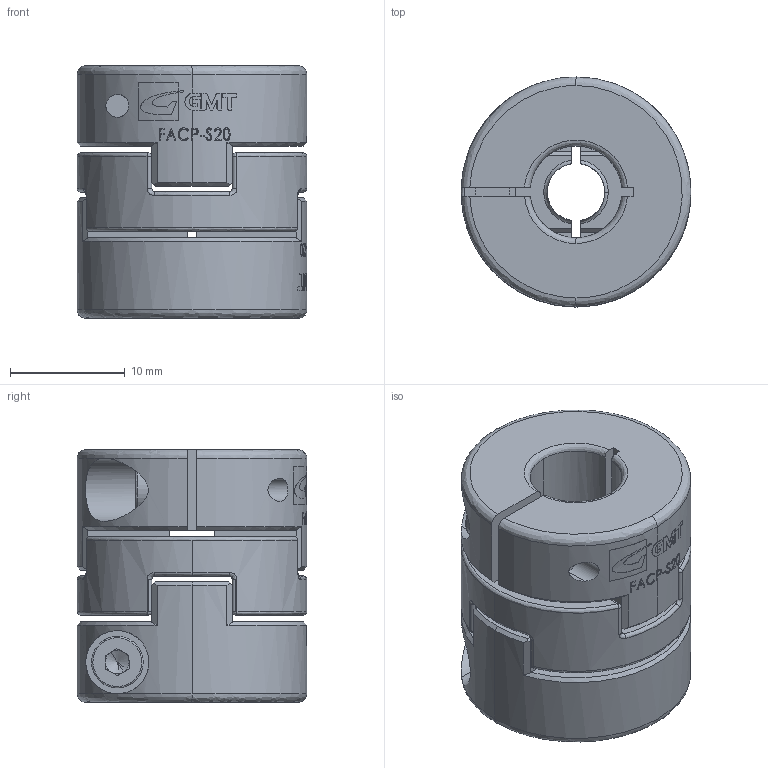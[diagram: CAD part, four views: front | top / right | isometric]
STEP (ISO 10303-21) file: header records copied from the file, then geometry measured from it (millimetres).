
FILE_DESCRIPTION (( 'STEP AP203' ), '1' );
FILE_NAME ('FACP-S20.STEP', '2008-04-07T00:45:21', ( '陳志豪' ), ( '高明鐵企業股份有限公司' ), 'SwSTEP 2.0', 'SolidWorks 2007', '' );
FILE_SCHEMA (( 'CONFIG_CONTROL_DESIGN' ));
Length unit declared in the file: millimetre
Products named in the file (1): FACP-S20
Bounding box: 20 x 20 x 22 mm (x, y, z)
Surface area: 3971 mm2 (no closed solid volume)
Topology: 0 solids, 9 shells, 387 faces, 1497 edges, 1048 vertices
Faces by surface type: plane 155, bspline 128, cylinder 88, cone 16
Entity records: 24042 total; most frequent: CARTESIAN_POINT 13205, ORIENTED_EDGE 2321, DIRECTION 1722, EDGE_CURVE 1483, VERTEX_POINT 1048, VECTOR 578, LINE 578, AXIS2_PLACEMENT_3D 572
